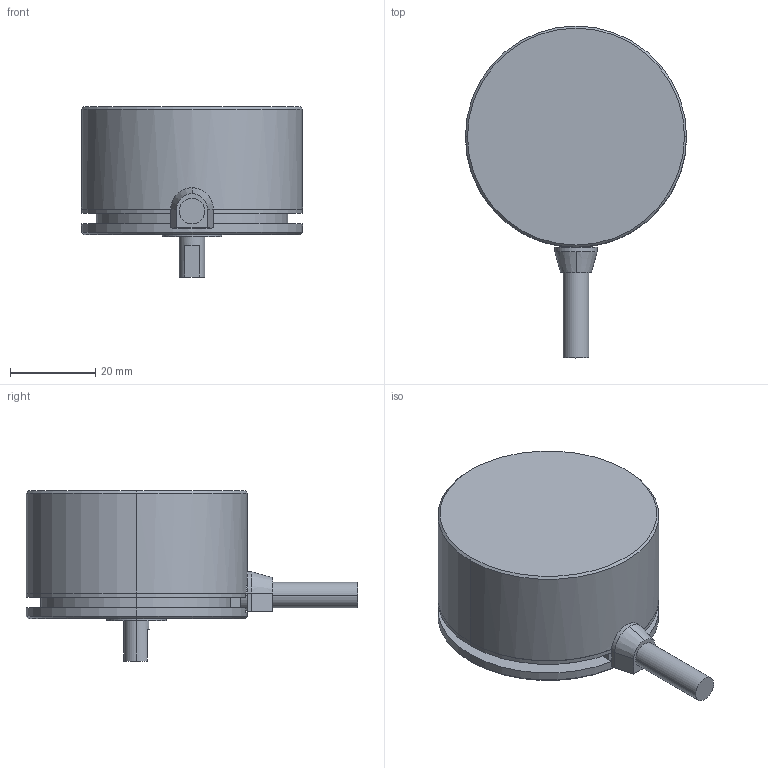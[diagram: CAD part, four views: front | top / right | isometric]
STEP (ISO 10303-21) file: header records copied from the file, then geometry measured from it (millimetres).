
FILE_DESCRIPTION(('STEP AP203'),'1');
FILE_NAME('C:/Users/MTL/Desktop/MAS42.step','2016-09-28T07:18:12',(' '),(' '),'Spatial InterOp 3D',' ',' ');
FILE_SCHEMA(('CONFIG_CONTROL_DESIGN'));
Length unit declared in the file: millimetre
Products named in the file (11): 1; 2; 3; 4; 5; 6; 7; 8; 9; 10; 11
Bounding box: 52 x 78 x 40 mm (x, y, z)
Volume: 21330 mm3; surface area: 24849.3 mm2
Topology: 11 solids, 11 shells, 127 faces, 282 edges, 182 vertices
Faces by surface type: cylinder 67, plane 48, cone 12
Entity records: 4168 total; most frequent: CARTESIAN_POINT 728, DIRECTION 694, ORIENTED_EDGE 552, AXIS2_PLACEMENT_3D 284, EDGE_CURVE 276, VERTEX_POINT 182, EDGE_LOOP 154, CIRCLE 146
